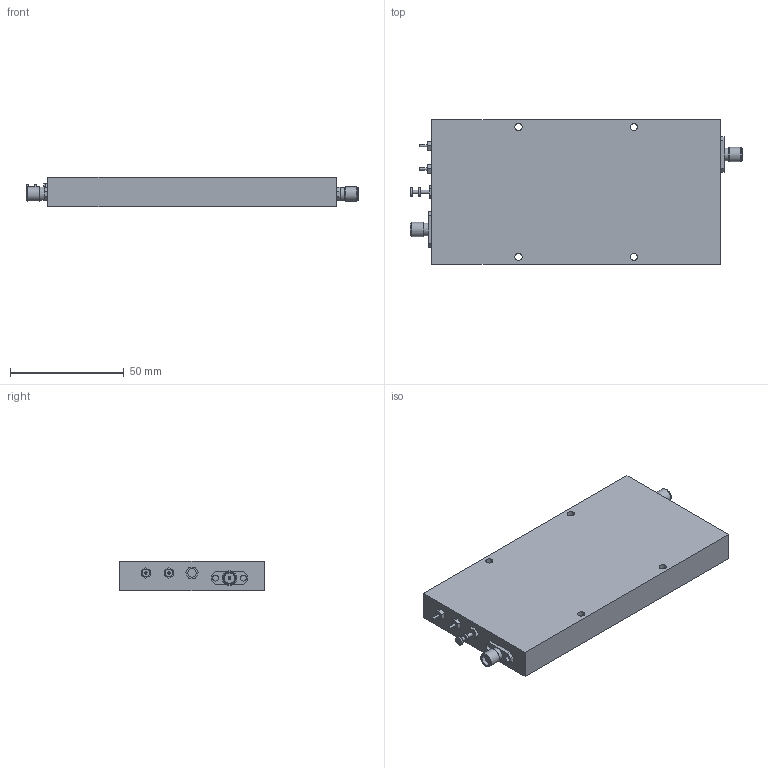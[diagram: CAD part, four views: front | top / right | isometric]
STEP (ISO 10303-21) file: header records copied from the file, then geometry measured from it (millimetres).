
FILE_DESCRIPTION((''),'2;1');
FILE_NAME('\\SERPENTOR\Engineering\ENG\Models\TAxxxx\TA1007 700-2500 MHz 5W SSPA Class A\Design\Inventor\101.stp','2015-05-27T16:32:36',('dcampbell'),(''),'Autodesk Inventor 2013','Autodesk Inventor 2013','');
FILE_SCHEMA(('AUTOMOTIVE_DESIGN { 1 0 10303 214 1 1 1 1 }'));
Length unit declared in the file: inch
Products named in the file (6): 101; 410-003; 410-003_1; 102-001; 470-004
Assembly tree (6 placements, depth 2):
  101
    101
    410-003
    410-003_1
    102-001  x2
    470-004
Bounding box: 146.18 x 63.5 x 13.03 mm (x, y, z)
Volume: 105459.7 mm3; surface area: 22942.3 mm2
Topology: 6 solids, 6 shells, 146 faces, 281 edges, 188 vertices
Faces by surface type: plane 91, cylinder 49, cone 6
Full cylindrical faces by diameter (mm): 0.737 x2, 1.016 x4, 1.245 x2, 1.27 x5, 1.295 x2, 1.651 x2, 1.905 x1, 2.286 x2, 2.54 x4, 2.591 x4, 2.743 x3, 3.175 x4, 3.429 x2, 3.683 x2, 4.597 x2, 5.08 x2, 5.486 x4, 6.35 x2
Entity records: 3153 total; most frequent: DIRECTION 548, CARTESIAN_POINT 476, ORIENTED_EDGE 372, AXIS2_PLACEMENT_3D 226, EDGE_LOOP 222, EDGE_CURVE 186, VERTEX_POINT 154, FACE_OUTER_BOUND 124
